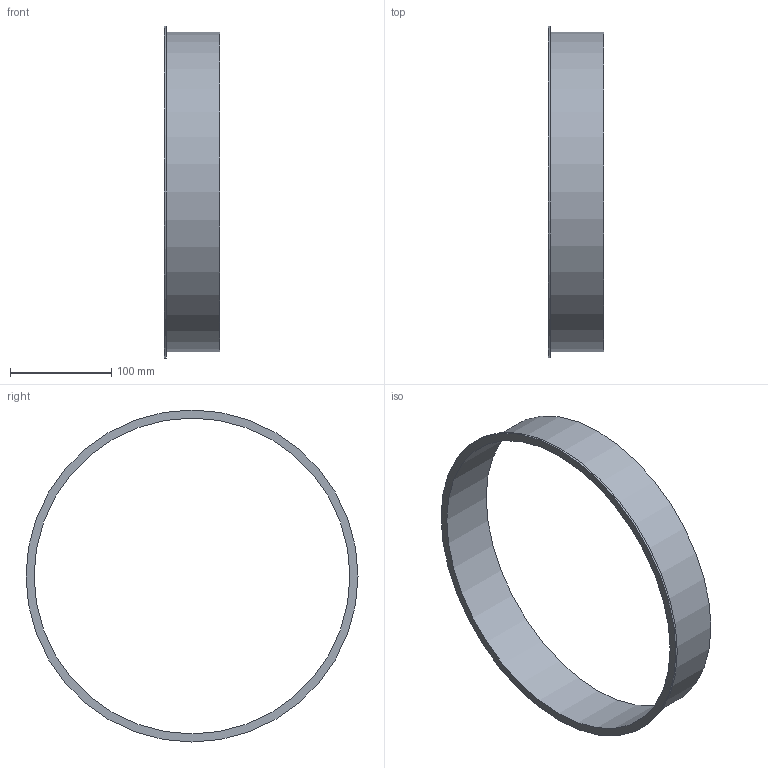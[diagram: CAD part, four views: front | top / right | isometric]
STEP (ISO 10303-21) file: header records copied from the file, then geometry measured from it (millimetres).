
FILE_DESCRIPTION((''),'2;1');
FILE_NAME('U:\Wolfgang\Marcel-3D\fertig\Kapitel 1\3121012.stp','2010-05-31T11:40:45',('TK2'),(''),'Autodesk Inventor 2010','Autodesk Inventor 2010','');
FILE_SCHEMA(('AUTOMOTIVE_DESIGN { 1 0 10303 214 1 1 1 1 }'));
Length unit declared in the file: millimetre
Products named in the file (1): 3121012
Bounding box: 55 x 328 x 328 mm (x, y, z)
Volume: 120649.7 mm3; surface area: 124671 mm2
Topology: 1 solids, 1 shells, 6 faces, 9 edges, 6 vertices
Faces by surface type: cylinder 3, plane 3
Full cylindrical faces by diameter (mm): 312 x1, 316 x1, 328 x1
Entity records: 154 total; most frequent: DIRECTION 26, CARTESIAN_POINT 19, AXIS2_PLACEMENT_3D 13, ORIENTED_EDGE 12, EDGE_LOOP 12, VERTEX_POINT 6, CIRCLE 6, EDGE_CURVE 6
